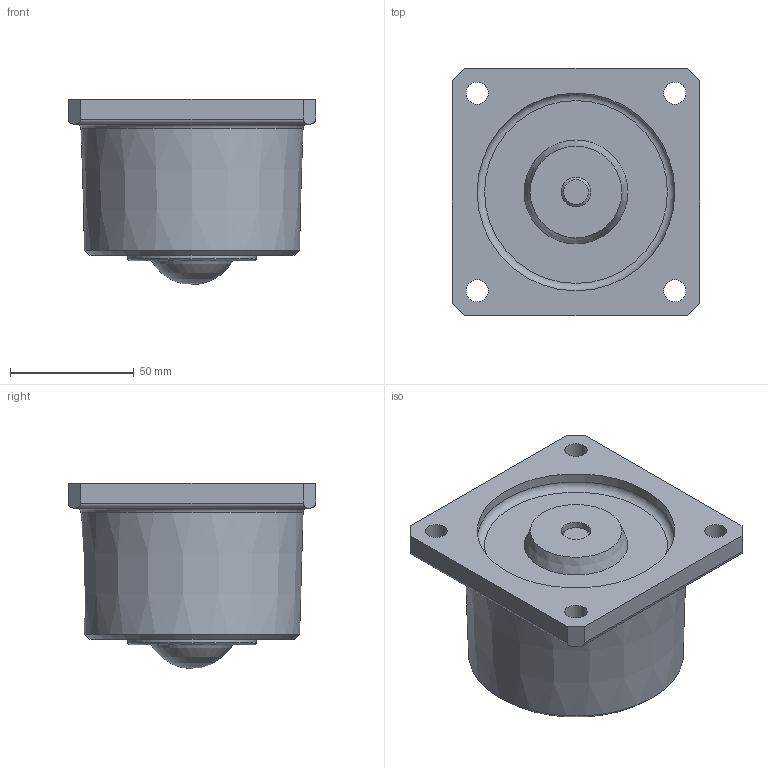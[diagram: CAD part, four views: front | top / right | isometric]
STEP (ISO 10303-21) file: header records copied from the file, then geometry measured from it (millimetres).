
FILE_DESCRIPTION(/* description */ (''),/* implementation_level */ '2;1');
FILE_NAME(/* name */ 'Z:\80-CAD共有ファイル\製品3D\X2\30C730FC30BF\X0\\11-IK\IK-38.stp',/* time_stamp */ '2015-01-07T09:34:06+09:00',/* author */ ('yamaki'),/* organization */ (''),/* preprocessor_version */ 'ST-DEVELOPER v15.6',/* originating_system */ 'Autodesk Inventor 2015',/* authorisation */ '');
FILE_SCHEMA (('AUTOMOTIVE_DESIGN { 1 0 10303 214 3 1 1 }'));
Length unit declared in the file: millimetre
Products named in the file (1): 1138AA
Bounding box: 100 x 100 x 75 mm (x, y, z)
Volume: 396266.5 mm3; surface area: 45248.4 mm2
Topology: 1 solids, 1 shells, 61 faces, 143 edges, 93 vertices
Faces by surface type: plane 27, cylinder 21, cone 6, torus 6, sphere 1
Full cylindrical faces by diameter (mm): 2.5 x2, 9 x4, 12 x1, 34.5 x1, 52 x1, 72 x1, 80 x1
Entity records: 1684 total; most frequent: DIRECTION 294, CARTESIAN_POINT 260, ORIENTED_EDGE 224, AXIS2_PLACEMENT_3D 120, EDGE_CURVE 112, EDGE_LOOP 102, VERTEX_POINT 86, STYLED_ITEM 62
